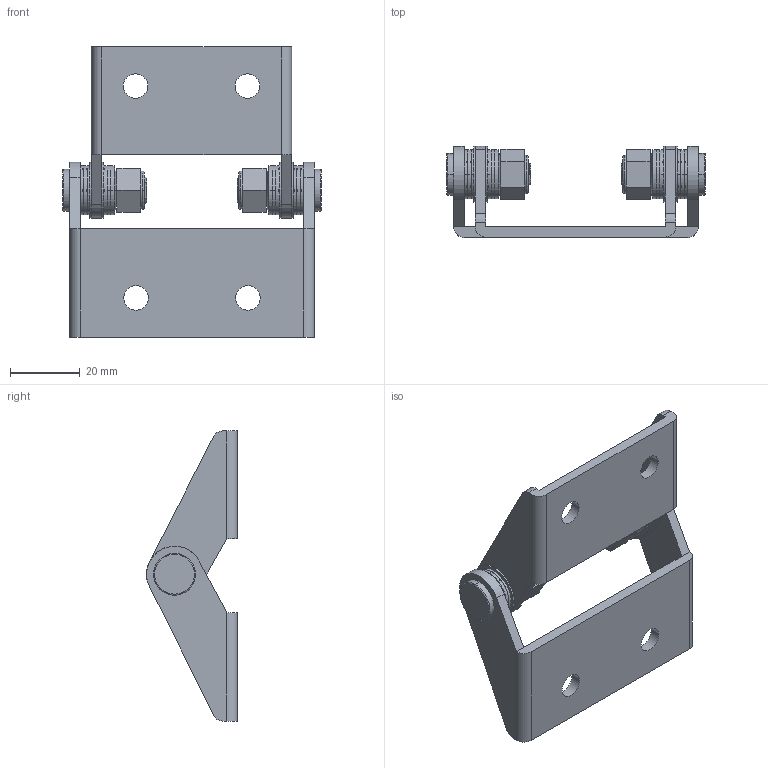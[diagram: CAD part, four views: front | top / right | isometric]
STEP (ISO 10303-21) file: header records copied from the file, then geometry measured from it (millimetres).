
FILE_DESCRIPTION((''),'2;1');
FILE_NAME('XG11-147-1_ASM','2025-09-12T09:13:44',('haicaihuang'),(''),'CREO PARAMETRIC BY PTC INC, 2018050','CREO PARAMETRIC BY PTC INC, 2018050','');
FILE_SCHEMA(('CONFIG_CONTROL_DESIGN'));
Length unit declared in the file: millimetre
Products named in the file (8): 232-C030-2111; 232-C030-2112; 211-M012-0240; 245-0005-0006; 245-0010-0009; 245-0010-0005; 242-0802-001; XG11-147-1_ASM
Assembly tree (22 placements, depth 2):
  XG11-147-1_ASM
    232-C030-2111
    232-C030-2112
    211-M012-0240  x2
    245-0005-0006  x4
    245-0010-0009  x8
    245-0010-0005  x4
    242-0802-001  x2
Bounding box: 74 x 26 x 83 mm (x, y, z)
Volume: 22978 mm3; surface area: 22460.5 mm2
Topology: 22 solids, 22 shells, 476 faces, 1260 edges, 828 vertices
Faces by surface type: plane 320, cylinder 120, cone 20, torus 8, bspline 8
Entity records: 6884 total; most frequent: CARTESIAN_POINT 2854, DIRECTION 823, ORIENTED_EDGE 780, EDGE_CURVE 390, AXIS2_PLACEMENT_3D 312, VERTEX_POINT 254, VECTOR 199, LINE 199
